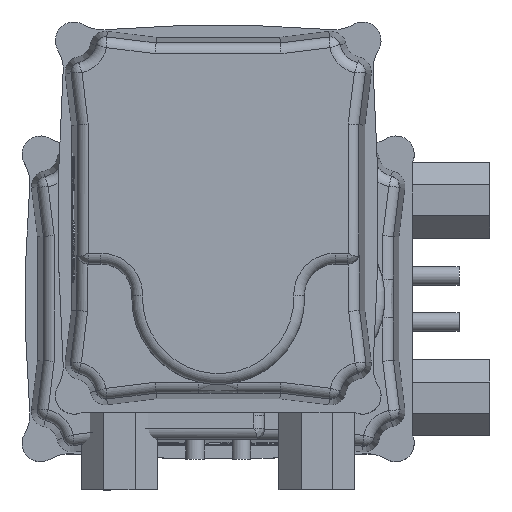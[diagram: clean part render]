
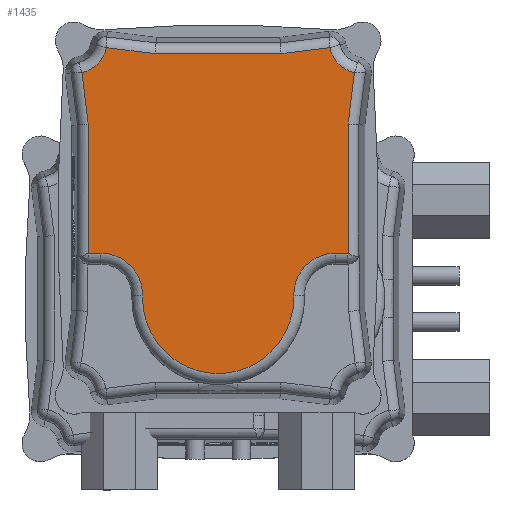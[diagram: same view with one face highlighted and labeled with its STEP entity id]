
A CAD part, top view. The second image highlights one B-rep face of the part: STEP entity #1435.
In plain terms, the highlighted planar face has unit normal (0, 0, 1).
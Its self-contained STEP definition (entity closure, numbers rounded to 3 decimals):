
#1435 = ADVANCED_FACE( '', ( #3236 ), #3237, .T. );
#3236 = FACE_OUTER_BOUND( '', #9494, .T. );
#3237 = PLANE( '', #9495 );
#9494 = EDGE_LOOP( '', ( #14955, #14956, #14957, #14958, #14959, #14960, #14961, #14962, #14963, #14964, #14965, #14966, #14967, #14968, #14969, #14970 ) );
#9495 = AXIS2_PLACEMENT_3D( '', #14971, #14972, #14973 );
#14955 = ORIENTED_EDGE( '', *, *, #18114, .T. );
#14956 = ORIENTED_EDGE( '', *, *, #18778, .T. );
#14957 = ORIENTED_EDGE( '', *, *, #19258, .T. );
#14958 = ORIENTED_EDGE( '', *, *, #19178, .T. );
#14959 = ORIENTED_EDGE( '', *, *, #18870, .T. );
#14960 = ORIENTED_EDGE( '', *, *, #19259, .T. );
#14961 = ORIENTED_EDGE( '', *, *, #19260, .T. );
#14962 = ORIENTED_EDGE( '', *, *, #19261, .T. );
#14963 = ORIENTED_EDGE( '', *, *, #19262, .T. );
#14964 = ORIENTED_EDGE( '', *, *, #19263, .T. );
#14965 = ORIENTED_EDGE( '', *, *, #19264, .T. );
#14966 = ORIENTED_EDGE( '', *, *, #17862, .T. );
#14967 = ORIENTED_EDGE( '', *, *, #17766, .T. );
#14968 = ORIENTED_EDGE( '', *, *, #18736, .T. );
#14969 = ORIENTED_EDGE( '', *, *, #18550, .T. );
#14970 = ORIENTED_EDGE( '', *, *, #19265, .T. );
#14971 = CARTESIAN_POINT( '', ( 47.227, -44.578, 84. ) );
#14972 = DIRECTION( '', ( 0., 0., 1. ) );
#14973 = DIRECTION( '', ( 1., 0., 0. ) );
#17766 = EDGE_CURVE( '', #20098, #20103, #20105, .T. );
#17862 = EDGE_CURVE( '', #20271, #20098, #20272, .T. );
#18114 = EDGE_CURVE( '', #20695, #20700, #20702, .T. );
#18550 = EDGE_CURVE( '', #20863, #21407, #21409, .F. );
#18736 = EDGE_CURVE( '', #20103, #20863, #21699, .T. );
#18778 = EDGE_CURVE( '', #20700, #21755, #21757, .T. );
#18870 = EDGE_CURVE( '', #21892, #21890, #21893, .T. );
#19178 = EDGE_CURVE( '', #21554, #21892, #22329, .T. );
#19258 = EDGE_CURVE( '', #21755, #21554, #22430, .F. );
#19259 = EDGE_CURVE( '', #21890, #22431, #22432, .T. );
#19260 = EDGE_CURVE( '', #22431, #22433, #22434, .T. );
#19261 = EDGE_CURVE( '', #22433, #22435, #22436, .F. );
#19262 = EDGE_CURVE( '', #22435, #22437, #22438, .T. );
#19263 = EDGE_CURVE( '', #22437, #22439, #22440, .F. );
#19264 = EDGE_CURVE( '', #22439, #20271, #22441, .T. );
#19265 = EDGE_CURVE( '', #21407, #20695, #22442, .T. );
#20098 = VERTEX_POINT( '', #24498 );
#20103 = VERTEX_POINT( '', #24525 );
#20105 = LINE( '', #24527, #24528 );
#20271 = VERTEX_POINT( '', #25018 );
#20272 = CIRCLE( '', #25019, 0.5 );
#20695 = VERTEX_POINT( '', #25891 );
#20700 = VERTEX_POINT( '', #25897 );
#20702 = LINE( '', #25899, #25900 );
#20863 = VERTEX_POINT( '', #26126 );
#21407 = VERTEX_POINT( '', #27369 );
#21409 = CIRCLE( '', #27392, 10.907 );
#21554 = VERTEX_POINT( '', #27678 );
#21699 = LINE( '', #28260, #28261 );
#21755 = VERTEX_POINT( '', #28404 );
#21757 = LINE( '', #28423, #28424 );
#21890 = VERTEX_POINT( '', #28675 );
#21892 = VERTEX_POINT( '', #28698 );
#21893 = LINE( '', #28699, #28700 );
#22329 = LINE( '', #29831, #29832 );
#22430 = CIRCLE( '', #30041, 10.907 );
#22431 = VERTEX_POINT( '', #30042 );
#22432 = CIRCLE( '', #30043, 0.5 );
#22433 = VERTEX_POINT( '', #30044 );
#22434 = LINE( '', #30045, #30046 );
#22435 = VERTEX_POINT( '', #30047 );
#22436 = CIRCLE( '', #30048, 13.5 );
#22437 = VERTEX_POINT( '', #30049 );
#22438 = CIRCLE( '', #30050, 24.5 );
#22439 = VERTEX_POINT( '', #30051 );
#22440 = CIRCLE( '', #30052, 13.5 );
#22441 = LINE( '', #30053, #30054 );
#22442 = LINE( '', #30055, #30056 );
#24498 = CARTESIAN_POINT( '', ( 11.491, 42.093, 84. ) );
#24525 = CARTESIAN_POINT( '', ( -30.331, 42.093, 84. ) );
#24527 = CARTESIAN_POINT( '', ( 47.227, 42.093, 84. ) );
#24528 = VECTOR( '', #31579, 1000. );
#25018 = CARTESIAN_POINT( '', ( 11.5, 42., 84. ) );
#25019 = AXIS2_PLACEMENT_3D( '', #31668, #31669, #31670 );
#25891 = CARTESIAN_POINT( '', ( -53.093, 20.331, 84. ) );
#25897 = CARTESIAN_POINT( '', ( -53.093, -20.331, 84. ) );
#25899 = CARTESIAN_POINT( '', ( -53.093, -44.578, 84. ) );
#25900 = VECTOR( '', #31946, 1000. );
#26126 = CARTESIAN_POINT( '', ( -46.913, 44.129, 84. ) );
#27369 = CARTESIAN_POINT( '', ( -55.033, 36.126, 84. ) );
#27392 = AXIS2_PLACEMENT_3D( '', #32394, #32395, #32396 );
#27678 = CARTESIAN_POINT( '', ( -46.913, -44.129, 84. ) );
#28260 = CARTESIAN_POINT( '', ( 56.559, 31.425, 84. ) );
#28261 = VECTOR( '', #32548, 1000. );
#28404 = CARTESIAN_POINT( '', ( -55.033, -36.126, 84. ) );
#28423 = CARTESIAN_POINT( '', ( -54.536, -32.083, 84. ) );
#28424 = VECTOR( '', #32584, 1000. );
#28675 = CARTESIAN_POINT( '', ( 11.491, -42.093, 84. ) );
#28698 = CARTESIAN_POINT( '', ( -30.331, -42.093, 84. ) );
#28699 = CARTESIAN_POINT( '', ( 47.227, -42.093, 84. ) );
#28700 = VECTOR( '', #32668, 1000. );
#29831 = CARTESIAN_POINT( '', ( 45.775, -32.749, 84. ) );
#29832 = VECTOR( '', #32922, 1000. );
#30041 = AXIS2_PLACEMENT_3D( '', #32982, #32983, #32984 );
#30042 = CARTESIAN_POINT( '', ( 11.5, -42., 84. ) );
#30043 = AXIS2_PLACEMENT_3D( '', #32985, #32986, #32987 );
#30044 = CARTESIAN_POINT( '', ( 11.5, -37.987, 84. ) );
#30045 = CARTESIAN_POINT( '', ( 11.5, -44.578, 84. ) );
#30046 = VECTOR( '', #32988, 1000. );
#30047 = CARTESIAN_POINT( '', ( 25.355, -24.492, 84. ) );
#30048 = AXIS2_PLACEMENT_3D( '', #32989, #32990, #32991 );
#30049 = CARTESIAN_POINT( '', ( 25.355, 24.492, 84. ) );
#30050 = AXIS2_PLACEMENT_3D( '', #32992, #32993, #32994 );
#30051 = CARTESIAN_POINT( '', ( 11.5, 37.987, 84. ) );
#30052 = AXIS2_PLACEMENT_3D( '', #32995, #32996, #32997 );
#30053 = CARTESIAN_POINT( '', ( 11.5, -44.578, 84. ) );
#30054 = VECTOR( '', #32998, 1000. );
#30055 = CARTESIAN_POINT( '', ( -43.752, -55.749, 84. ) );
#30056 = VECTOR( '', #32999, 1000. );
#31579 = DIRECTION( '', ( -1., 0., 0. ) );
#31668 = CARTESIAN_POINT( '', ( 11., 42., 84. ) );
#31669 = DIRECTION( '', ( 0., 0., 1. ) );
#31670 = DIRECTION( '', ( 1., 0., 0. ) );
#31946 = DIRECTION( '', ( 0., -1., 0. ) );
#32394 = CARTESIAN_POINT( '', ( -57.5, 46.75, 84. ) );
#32395 = DIRECTION( '', ( 0., 0., 1. ) );
#32396 = DIRECTION( '', ( 1., 0., 0. ) );
#32548 = DIRECTION( '', ( -0.993, 0.122, 0. ) );
#32584 = DIRECTION( '', ( -0.122, -0.993, 0. ) );
#32668 = DIRECTION( '', ( 1., 0., 0. ) );
#32922 = DIRECTION( '', ( 0.993, 0.122, 0. ) );
#32982 = CARTESIAN_POINT( '', ( -57.5, -46.75, 84. ) );
#32983 = DIRECTION( '', ( 0., 0., 1. ) );
#32984 = DIRECTION( '', ( 1., 0., 0. ) );
#32985 = CARTESIAN_POINT( '', ( 11., -42., 84. ) );
#32986 = DIRECTION( '', ( 0., 0., 1. ) );
#32987 = DIRECTION( '', ( 1., 0., 0. ) );
#32988 = DIRECTION( '', ( 0., 1., 0. ) );
#32989 = CARTESIAN_POINT( '', ( 25., -37.987, 84. ) );
#32990 = DIRECTION( '', ( 0., 0., 1. ) );
#32991 = DIRECTION( '', ( 1., 0., 0. ) );
#32992 = CARTESIAN_POINT( '', ( 26., 0., 84. ) );
#32993 = DIRECTION( '', ( 0., 0., 1. ) );
#32994 = DIRECTION( '', ( 1., 0., 0. ) );
#32995 = CARTESIAN_POINT( '', ( 25., 37.987, 84. ) );
#32996 = DIRECTION( '', ( 0., 0., 1. ) );
#32997 = DIRECTION( '', ( 1., 0., 0. ) );
#32998 = DIRECTION( '', ( 0., 1., 0. ) );
#32999 = DIRECTION( '', ( 0.122, -0.993, 0. ) );
